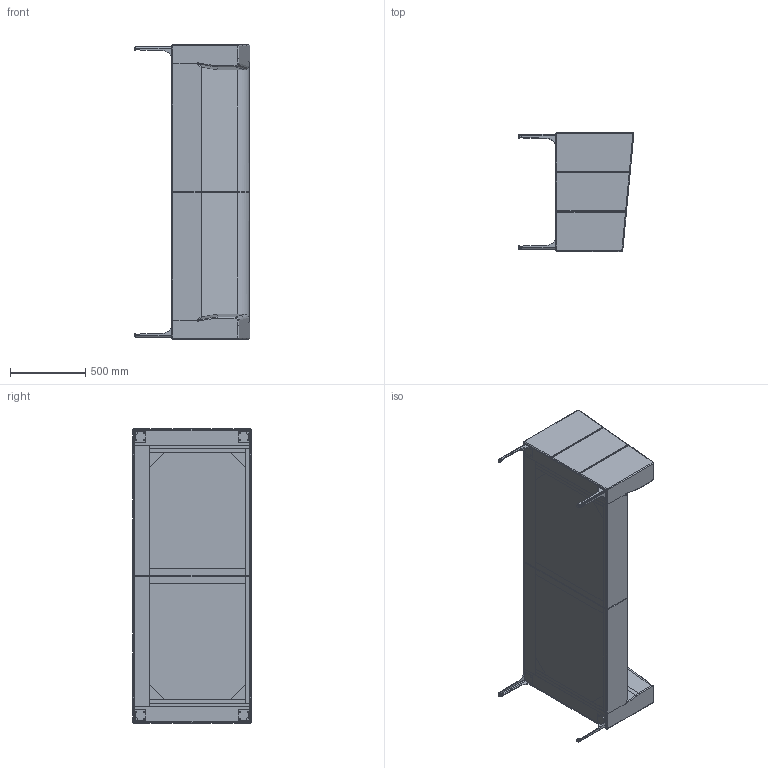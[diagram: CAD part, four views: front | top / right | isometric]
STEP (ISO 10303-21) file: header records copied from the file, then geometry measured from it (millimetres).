
FILE_DESCRIPTION (( 'STEP AP203' ), '1' );
FILE_NAME ('Armour Three Seater Sofa W1960 x D790 x H770.STEP', '2024-04-06T06:20:08', ( '' ), ( '' ), 'SwSTEP 2.0', 'SolidWorks 2023', '' );
FILE_SCHEMA (( 'CONFIG_CONTROL_DESIGN' ));
Length unit declared in the file: millimetre
Products named in the file (6): Armour Leg Three Seater; AS_Sofa 1; Armour Three Seater Sofa W1960 x D790 x H770; MirrorArmour Leg Three Seater; M10 Leveller Three Seater; Armour Sturcture Three Seater
Assembly tree (10 placements, depth 2):
  Armour Three Seater Sofa W1960 x D790 x H770
    Armour Sturcture Three Seater
    Armour Leg Three Seater  x2
    MirrorArmour Leg Three Seater  x2
    M10 Leveller Three Seater  x4
    AS_Sofa 1
Bounding box: 771.4 x 790 x 1960 mm (x, y, z)
Volume: 524164305.7 mm3; surface area: 11980848.6 mm2
Topology: 45 solids, 45 shells, 553 faces, 1280 edges, 808 vertices
Faces by surface type: plane 354, cylinder 156, bspline 17, torus 16, sphere 10
Entity records: 13888 total; most frequent: CARTESIAN_POINT 3026, ORIENTED_EDGE 2080, DIRECTION 2038, EDGE_CURVE 1040, VECTOR 774, LINE 774, VERTEX_POINT 660, AXIS2_PLACEMENT_3D 632
